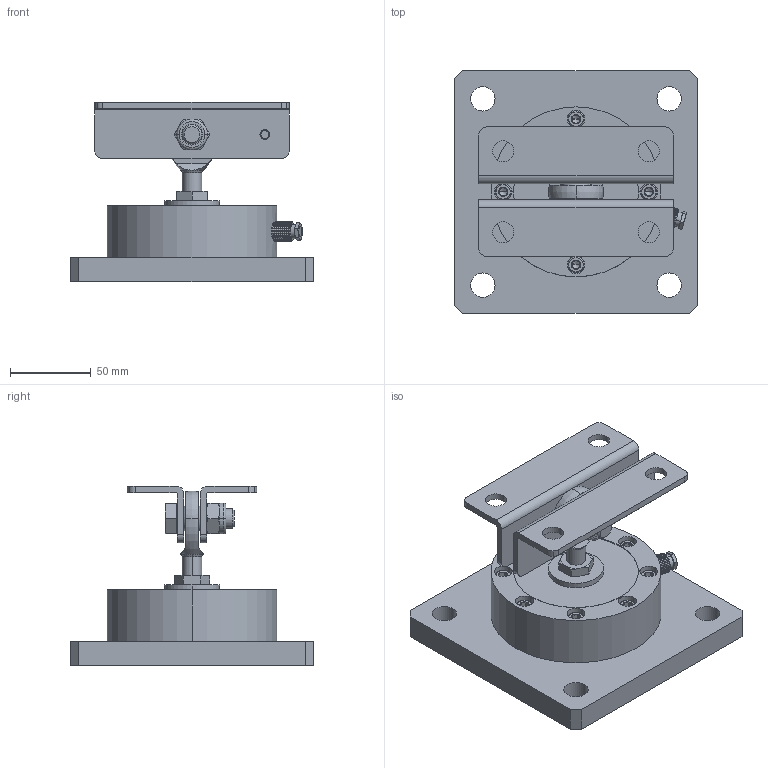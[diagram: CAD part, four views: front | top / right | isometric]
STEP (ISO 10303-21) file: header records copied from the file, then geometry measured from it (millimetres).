
FILE_DESCRIPTION((''),'1');
FILE_NAME('LMLAK_2000_kg.step','2020-07-06T15:32:56',(''),(''),'','','');
FILE_SCHEMA(('AUTOMOTIVE_DESIGN { 1 0 10303 214 1 1 1 1 }'));
Products named in the file (15): LMLAK 2000_kg; LMLAK screw 01; LMLAK nut 01; LMLAK part 02; LMLAK connector 01; LMLAK body 01; LMLAK part 03; LMLAK part 04; LMLAK nut 02; LMLAK part 05; LMLAK part 06; LMLAK load cell 01; LMLAK body 03; LMLAK cable gland 01; LMLAK plate 01
Assembly tree (23 placements, depth 4):
  LMLAK 2000_kg
    LMLAK screw 01
    LMLAK nut 01
    LMLAK part 02  x2
    LMLAK connector 01
      LMLAK body 01
      LMLAK part 03
      LMLAK part 04
    LMLAK nut 02
    LMLAK load cell 01
      LMLAK part 05
        LMLAK part 06  x9
      LMLAK body 03
      LMLAK cable gland 01
      LMLAK plate 01
Bounding box: 150 x 150 x 111 mm (x, y, z)
Volume: 671538.1 mm3; surface area: 146979.2 mm2
Topology: 20 solids, 22 shells, 774 faces, 1781 edges, 1055 vertices
Faces by surface type: cone 250, plane 225, cylinder 186, torus 108, sphere 2, bspline 2, offset 1
Entity records: 13862 total; most frequent: CARTESIAN_POINT 3508, DIRECTION 2268, ORIENTED_EDGE 1926, AXIS2_PLACEMENT_3D 969, EDGE_CURVE 965, VERTEX_POINT 579, EDGE_LOOP 512, CIRCLE 511
